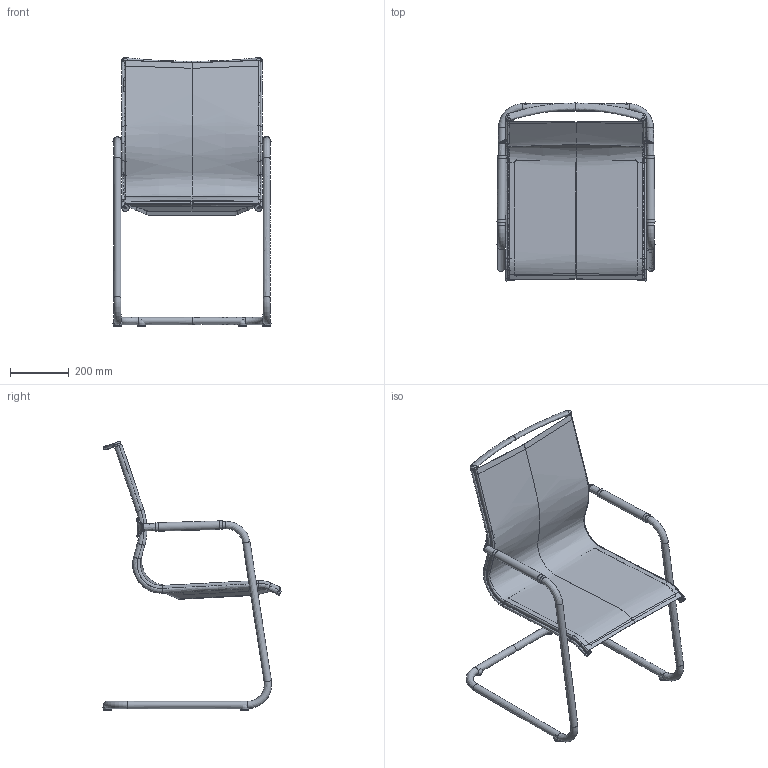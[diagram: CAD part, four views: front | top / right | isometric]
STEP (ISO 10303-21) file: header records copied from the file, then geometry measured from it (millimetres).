
FILE_DESCRIPTION(/* description */ (''),/* implementation_level */ '2;1');
FILE_NAME(/* name */ 'PLA1DD~1',/* time_stamp */ '2018-04-10T15:46:49+02:00',/* author */ (''),/* organization */ (''),/* preprocessor_version */ 'ST-DEVELOPER v16.5',/* originating_system */ '',/* authorisation */ '');
FILE_SCHEMA (('AUTOMOTIVE_DESIGN'));
Length unit declared in the file: millimetre
Products named in the file (1): Document
Bounding box: 539.81 x 608.69 x 917.21 mm (x, y, z)
Volume: 8577558.9 mm3; surface area: 1393103.4 mm2
Topology: 4 solids, 18 shells, 146 faces, 384 edges, 260 vertices
Faces by surface type: bspline 116, plane 30
Entity records: 13988 total; most frequent: CARTESIAN_POINT 11818, ORIENTED_EDGE 680, EDGE_CURVE 381, VERTEX_POINT 254, B_SPLINE_CURVE_WITH_KNOTS 150, ADVANCED_FACE 146, FACE_OUTER_BOUND 146, EDGE_LOOP 146
